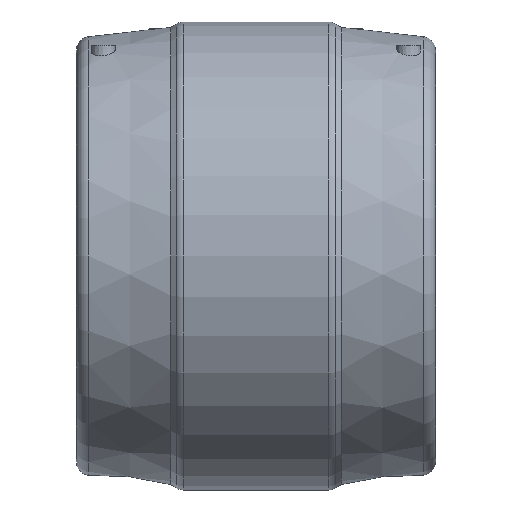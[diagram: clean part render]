
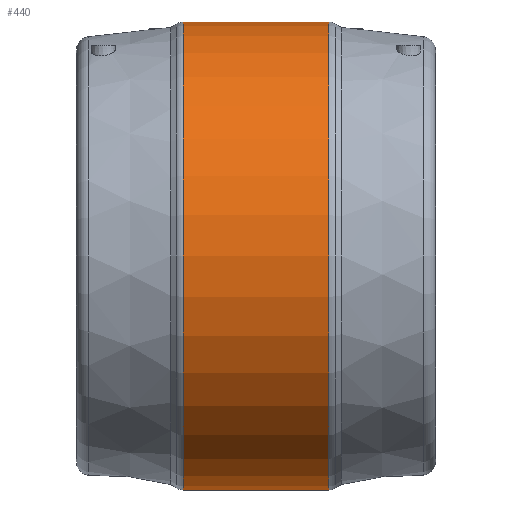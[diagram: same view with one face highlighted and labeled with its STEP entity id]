
A CAD part, front view. The second image highlights one B-rep face of the part: STEP entity #440.
In plain terms, the highlighted cylindrical face has radius 277 mm (diameter 554 mm), a full revolution.
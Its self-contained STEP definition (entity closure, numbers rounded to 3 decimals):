
#29=CYLINDRICAL_SURFACE('',#503,277.);
#65=CIRCLE('',#502,277.);
#66=CIRCLE('',#504,277.);
#112=ORIENTED_EDGE('',*,*,#186,.F.);
#113=ORIENTED_EDGE('',*,*,#185,.T.);
#185=EDGE_CURVE('',#229,#229,#65,.T.);
#186=EDGE_CURVE('',#230,#230,#66,.T.);
#229=VERTEX_POINT('',#871);
#230=VERTEX_POINT('',#874);
#282=EDGE_LOOP('',(#112));
#283=EDGE_LOOP('',(#113));
#366=FACE_BOUND('',#282,.T.);
#367=FACE_BOUND('',#283,.T.);
#440=ADVANCED_FACE('',(#366,#367),#29,.T.);
#502=AXIS2_PLACEMENT_3D('',#870,#595,#596);
#503=AXIS2_PLACEMENT_3D('',#872,#597,#598);
#504=AXIS2_PLACEMENT_3D('',#873,#599,#600);
#595=DIRECTION('',(-1.,0.,0.));
#596=DIRECTION('',(0.,0.,1.));
#597=DIRECTION('',(-1.,0.,0.));
#598=DIRECTION('',(0.,0.,1.));
#599=DIRECTION('',(-1.,0.,0.));
#600=DIRECTION('',(0.,0.,1.));
#870=CARTESIAN_POINT('',(86.,0.,0.));
#871=CARTESIAN_POINT('',(86.,0.,277.));
#872=CARTESIAN_POINT('',(-60.,0.,0.));
#873=CARTESIAN_POINT('',(-86.,0.,0.));
#874=CARTESIAN_POINT('',(-86.,0.,277.));
